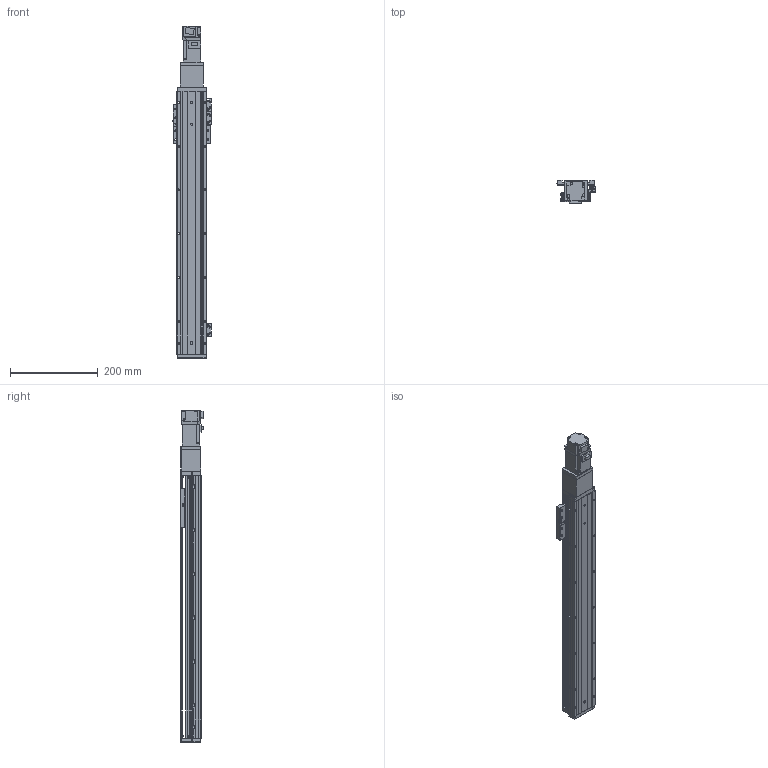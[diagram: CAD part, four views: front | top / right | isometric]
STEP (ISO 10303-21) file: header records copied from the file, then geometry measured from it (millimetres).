
FILE_DESCRIPTION (( 'STEP AP203' ), '1' );
FILE_NAME ('KTHAL60-450-BC-M10-C4L.step', '2022-03-19T08:35:07', ( '微软用户' ), ( '微软中国' ), 'SwSTEP 2.0', 'SolidWorks 2020', '' );
FILE_SCHEMA (( 'CONFIG_CONTROL_DESIGN' ));
Length unit declared in the file: millimetre
Products named in the file (18): CTHA60-017; CTHA60-027; KTHLA60-002; CTHA60-021; CTHA60-013; KTHA60-004; GBT 70.1-M4×16; HG-KR13（三菱）; KTHA60-005; GBT77-2000M3-3; KTHAL60-450-BC-M10-C4L; GB¨uT 70.2-M3¡Á5_M3¡Á6; GBT 70.1-M3℅6; GBT 70.3-M3℅6; CTHA60-016; EE_SX911P_R; CTHA60-006-2_CTHA60-006-2; KTHA60-001_600
Assembly tree (50 placements, depth 2):
  KTHAL60-450-BC-M10-C4L
    KTHA60-001_600
    KTHLA60-002
    KTHA60-004
    KTHA60-005
    GB¨uT 70.2-M3¡Á5_M3¡Á6  x5
    GBT 70.3-M3℅6  x6
    EE_SX911P_R  x3
    CTHA60-017  x3
    CTHA60-021  x2
    GBT 70.1-M4×16  x10
    GBT77-2000M3-3  x6
    GBT 70.1-M3℅6  x6
    CTHA60-016
    CTHA60-006-2_CTHA60-006-2
    CTHA60-027
    CTHA60-013
    HG-KR13（三菱）
Bounding box: 87.82 x 53.3 x 758.6 mm (x, y, z)
Volume: 1360306 mm3; surface area: 355340.5 mm2
Topology: 53 solids, 53 shells, 2200 faces, 5218 edges, 3201 vertices
Faces by surface type: plane 1282, cylinder 525, cone 293, torus 86, sphere 14
Entity records: 36712 total; most frequent: CARTESIAN_POINT 6026, DIRECTION 5910, ORIENTED_EDGE 5640, EDGE_CURVE 2820, VECTOR 2012, LINE 2012, AXIS2_PLACEMENT_3D 1949, VERTEX_POINT 1769
